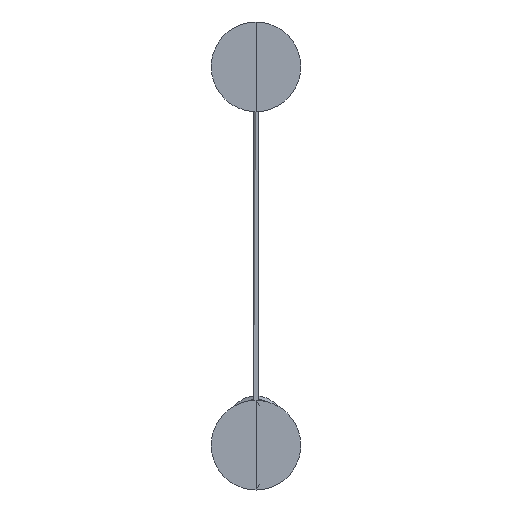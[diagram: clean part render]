
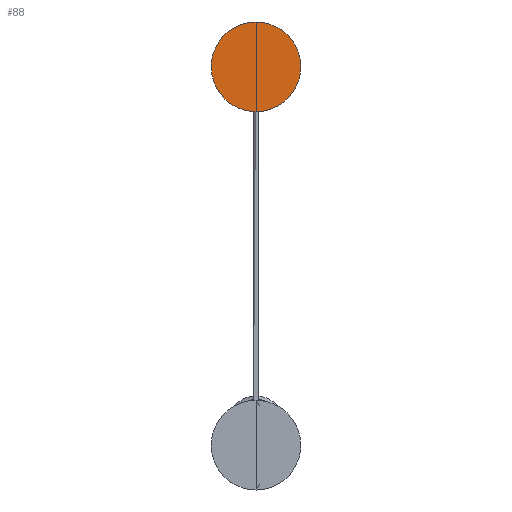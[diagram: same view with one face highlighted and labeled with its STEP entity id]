
A CAD part, top view. The second image highlights one B-rep face of the part: STEP entity #88.
In plain terms, the highlighted planar face has unit normal (0, 0, 1).
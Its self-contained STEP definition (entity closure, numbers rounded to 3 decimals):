
#88=ADVANCED_FACE($,(#121),#442,.T.);
#121=FACE_OUTER_BOUND($,#154,.T.);
#154=EDGE_LOOP($,(#248,#249));
#248=ORIENTED_EDGE($,*,*,#332,.T.);
#249=ORIENTED_EDGE($,*,*,#333,.T.);
#332=EDGE_CURVE($,#397,#398,#486,.T.);
#333=EDGE_CURVE($,#398,#397,#487,.T.);
#397=VERTEX_POINT($,#1232);
#398=VERTEX_POINT($,#1233);
#442=PLANE($,#637);
#486=(
BOUNDED_CURVE()
B_SPLINE_CURVE(2,(#1221,#1222,#1223,#1224,#1225),.UNSPECIFIED.,.F.,.F.)
B_SPLINE_CURVE_WITH_KNOTS((3,2,3),(-17.047,-12.785,-8.523),
.UNSPECIFIED.)
CURVE()
GEOMETRIC_REPRESENTATION_ITEM()
RATIONAL_B_SPLINE_CURVE((1.,0.707,1.,0.707,
1.))
REPRESENTATION_ITEM($)
);
#487=(
BOUNDED_CURVE()
B_SPLINE_CURVE(2,(#1226,#1227,#1228,#1229,#1230),.UNSPECIFIED.,.F.,.F.)
B_SPLINE_CURVE_WITH_KNOTS((3,2,3),(-8.523,-4.262,0.),
.UNSPECIFIED.)
CURVE()
GEOMETRIC_REPRESENTATION_ITEM()
RATIONAL_B_SPLINE_CURVE((1.,0.707,1.,0.707,
1.))
REPRESENTATION_ITEM($)
);
#637=AXIS2_PLACEMENT_3D($,#1231,#655,$);
#655=DIRECTION($,(0.,0.,1.));
#1221=CARTESIAN_POINT($,(0.,711.819,601.608));
#1222=CARTESIAN_POINT($,(-65.819,711.819,601.608));
#1223=CARTESIAN_POINT($,(-65.819,646.,601.608));
#1224=CARTESIAN_POINT($,(-65.819,580.181,601.608));
#1225=CARTESIAN_POINT($,(0.,580.181,601.608));
#1226=CARTESIAN_POINT($,(0.,580.181,601.608));
#1227=CARTESIAN_POINT($,(65.819,580.181,601.608));
#1228=CARTESIAN_POINT($,(65.819,646.,601.608));
#1229=CARTESIAN_POINT($,(65.819,711.819,601.608));
#1230=CARTESIAN_POINT($,(0.,711.819,601.608));
#1231=CARTESIAN_POINT($,(-67.135,578.865,601.608));
#1232=CARTESIAN_POINT($,(0.,711.819,601.608));
#1233=CARTESIAN_POINT($,(0.,580.181,601.608));
